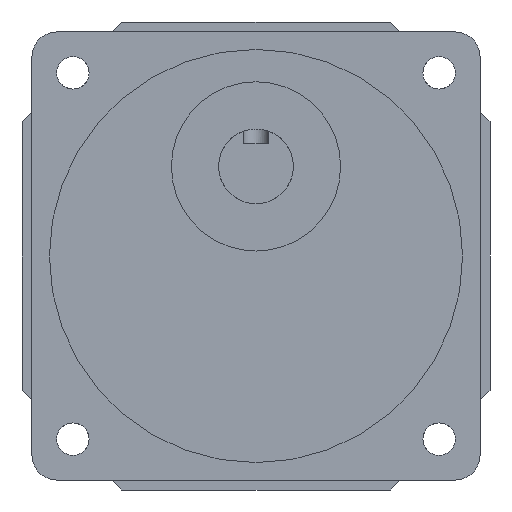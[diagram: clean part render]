
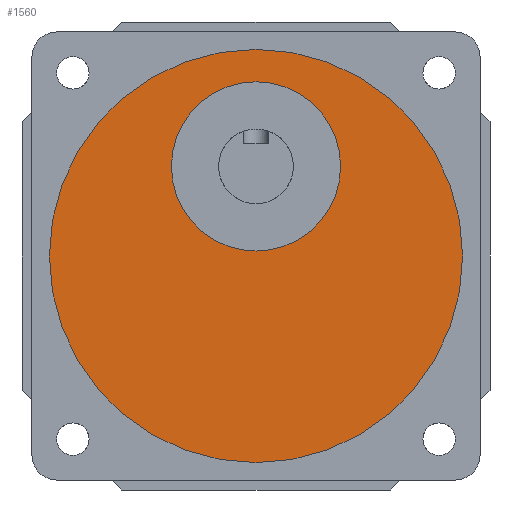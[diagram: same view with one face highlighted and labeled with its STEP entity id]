
A CAD part, front view. The second image highlights one B-rep face of the part: STEP entity #1560.
In plain terms, the highlighted planar face has unit normal (0, -1, 0).
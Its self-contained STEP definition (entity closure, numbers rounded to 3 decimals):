
#45 = CARTESIAN_POINT ( 'NONE',  ( 45., -63.5, 63. ) ) ;
#90 = CARTESIAN_POINT ( 'NONE',  ( 45., -63.5, 45. ) ) ;
#202 = AXIS2_PLACEMENT_3D ( 'NONE', #2845, #1702, #4706 ) ;
#341 = CIRCLE ( 'NONE', #1758, 17. ) ;
#417 = EDGE_LOOP ( 'NONE', ( #3947, #3197 ) ) ;
#1333 = CARTESIAN_POINT ( 'NONE',  ( 45., -63.5, 3.5 ) ) ;
#1425 = DIRECTION ( 'NONE',  ( 0., -1., 0. ) ) ;
#1476 = CIRCLE ( 'NONE', #4302, 17. ) ;
#1560 = ADVANCED_FACE ( 'NONE', ( #3713, #3418 ), #3745, .T. ) ;
#1565 = CARTESIAN_POINT ( 'NONE',  ( 45., -63.5, 80. ) ) ;
#1684 = CIRCLE ( 'NONE', #3218, 41.5 ) ;
#1702 = DIRECTION ( 'NONE',  ( 0., -1., 0. ) ) ;
#1758 = AXIS2_PLACEMENT_3D ( 'NONE', #45, #1983, #3877 ) ;
#1983 = DIRECTION ( 'NONE',  ( 0., -1., 0. ) ) ;
#2022 = EDGE_LOOP ( 'NONE', ( #4951, #3016 ) ) ;
#2153 = EDGE_CURVE ( 'NONE', #3927, #3379, #1684, .T. ) ;
#2325 = DIRECTION ( 'NONE',  ( 0., 0., -1. ) ) ;
#2600 = CARTESIAN_POINT ( 'NONE',  ( 45., -63.5, 46. ) ) ;
#2715 = EDGE_CURVE ( 'NONE', #4261, #3969, #341, .T. ) ;
#2802 = CARTESIAN_POINT ( 'NONE',  ( 45., -63.5, 86.5 ) ) ;
#2845 = CARTESIAN_POINT ( 'NONE',  ( 45., -63.5, 45. ) ) ;
#3016 = ORIENTED_EDGE ( 'NONE', *, *, #4259, .F. ) ;
#3197 = ORIENTED_EDGE ( 'NONE', *, *, #3290, .T. ) ;
#3218 = AXIS2_PLACEMENT_3D ( 'NONE', #90, #4606, #4244 ) ;
#3290 = EDGE_CURVE ( 'NONE', #3379, #3927, #4291, .T. ) ;
#3379 = VERTEX_POINT ( 'NONE', #2802 ) ;
#3418 = FACE_OUTER_BOUND ( 'NONE', #417, .T. ) ;
#3525 = AXIS2_PLACEMENT_3D ( 'NONE', #4446, #1425, #4504 ) ;
#3713 = FACE_BOUND ( 'NONE', #2022, .T. ) ;
#3745 = PLANE ( 'NONE',  #3525 ) ;
#3849 = CARTESIAN_POINT ( 'NONE',  ( 45., -63.5, 63. ) ) ;
#3877 = DIRECTION ( 'NONE',  ( 0., 0., -1. ) ) ;
#3927 = VERTEX_POINT ( 'NONE', #1333 ) ;
#3947 = ORIENTED_EDGE ( 'NONE', *, *, #2153, .T. ) ;
#3969 = VERTEX_POINT ( 'NONE', #2600 ) ;
#4244 = DIRECTION ( 'NONE',  ( 0., 0., -1. ) ) ;
#4259 = EDGE_CURVE ( 'NONE', #3969, #4261, #1476, .T. ) ;
#4261 = VERTEX_POINT ( 'NONE', #1565 ) ;
#4291 = CIRCLE ( 'NONE', #202, 41.5 ) ;
#4302 = AXIS2_PLACEMENT_3D ( 'NONE', #3849, #4594, #2325 ) ;
#4446 = CARTESIAN_POINT ( 'NONE',  ( 45., -63.5, 45. ) ) ;
#4504 = DIRECTION ( 'NONE',  ( 0., 0., -1. ) ) ;
#4594 = DIRECTION ( 'NONE',  ( 0., -1., 0. ) ) ;
#4606 = DIRECTION ( 'NONE',  ( 0., -1., 0. ) ) ;
#4706 = DIRECTION ( 'NONE',  ( 0., 0., -1. ) ) ;
#4951 = ORIENTED_EDGE ( 'NONE', *, *, #2715, .F. ) ;
